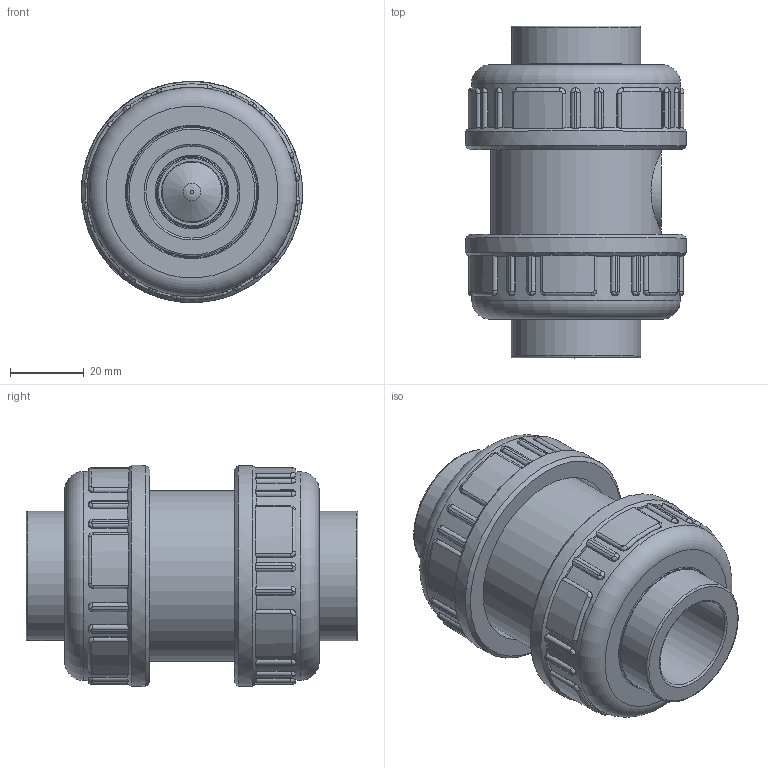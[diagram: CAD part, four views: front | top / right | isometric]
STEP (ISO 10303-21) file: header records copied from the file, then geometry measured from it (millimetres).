
FILE_DESCRIPTION(/* description */ (''),/* implementation_level */ '2;1');
FILE_NAME(/* name */ 'C:\Users\POLYPIPE\Desktop\DATASET INVENTOR\LIBRERIA EFFAST\3D_VALVOLE\3D_VALVOLE NON RITORNO\3D_CV\3D_CDRCVD\3D_CDRCVD0250.stp',/* time_stamp */ '2018-01-24T16:00:56+01:00',/* author */ ('POLYPIPE'),/* organization */ (''),/* preprocessor_version */ 'ST-DEVELOPER v16.1',/* originating_system */ 'Autodesk Inventor 2016',/* authorisation */ '');
FILE_SCHEMA (('CONFIG_CONTROL_DESIGN'));
Length unit declared in the file: centimetre
Products named in the file (1): 3D_CDRCVD0250
Bounding box: 59.99 x 90 x 59.99 mm (x, y, z)
Volume: 118093.7 mm3; surface area: 53498.5 mm2
Topology: 2 solids, 4 shells, 562 faces, 1457 edges, 923 vertices
Faces by surface type: plane 206, cylinder 153, bspline 146, torus 47, cone 10
Full cylindrical faces by diameter (mm): 18.8 x1, 20 x2, 20.1 x1, 20.2 x1, 22.8 x1, 23.8 x2, 25 x2, 26 x1, 29.5 x1, 31.4 x1, 31.8 x1, 32.3 x1, 35 x1, 35.1 x2, 35.7 x2, 36.2 x2, 38 x1, 38.5 x1, 38.8 x1, 39.4 x1, 42.75 x2, 46.15 x1, 48.3 x2, 56.7 x2, 60 x2
Entity records: 61825 total; most frequent: CARTESIAN_POINT 48606, ORIENTED_EDGE 2744, DIRECTION 2347, EDGE_CURVE 1372, VERTEX_POINT 907, AXIS2_PLACEMENT_3D 901, EDGE_LOOP 665, STYLED_ITEM 564
